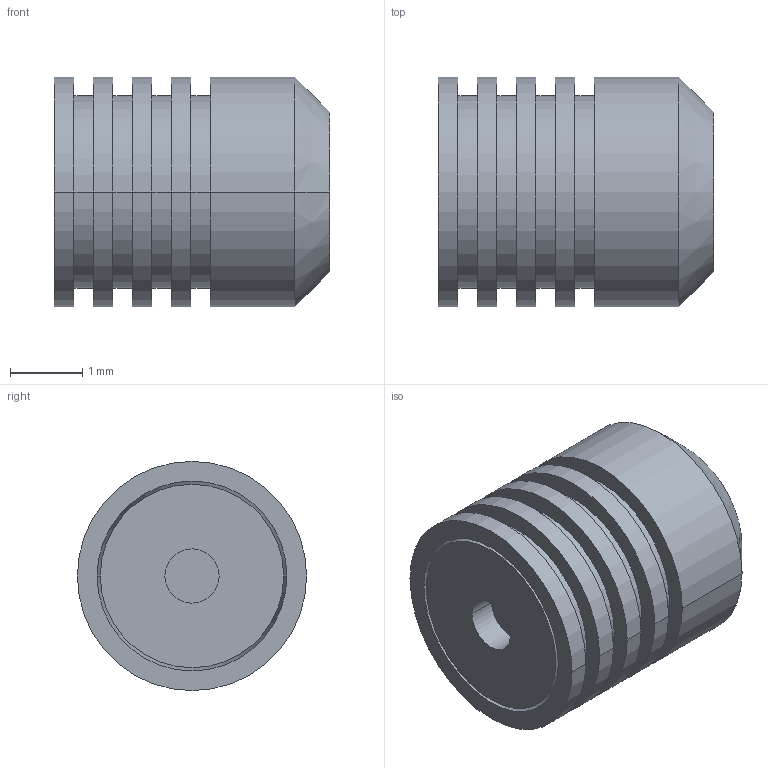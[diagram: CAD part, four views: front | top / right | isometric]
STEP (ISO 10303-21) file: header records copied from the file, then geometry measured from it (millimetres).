
FILE_DESCRIPTION (( 'STEP AP214' ), '1' );
FILE_NAME ('JELA1210___D.STEP', '2021-11-04T13:25:49', ( '' ), ( '' ), 'SwSTEP 2.0', 'SolidWorks 2019', '' );
FILE_SCHEMA (( 'AUTOMOTIVE_DESIGN' ));
Length unit declared in the file: inch
Products named in the file (1): JELA1210___D
Bounding box: 3.81 x 3.17 x 3.17 mm (x, y, z)
Volume: 26.4 mm3; surface area: 72.3 mm2
Topology: 1 solids, 1 shells, 38 faces, 74 edges, 48 vertices
Faces by surface type: cylinder 22, plane 12, cone 4
Entity records: 1034 total; most frequent: DIRECTION 200, CARTESIAN_POINT 161, ORIENTED_EDGE 148, AXIS2_PLACEMENT_3D 87, EDGE_CURVE 74, CIRCLE 48, VERTEX_POINT 48, EDGE_LOOP 48
